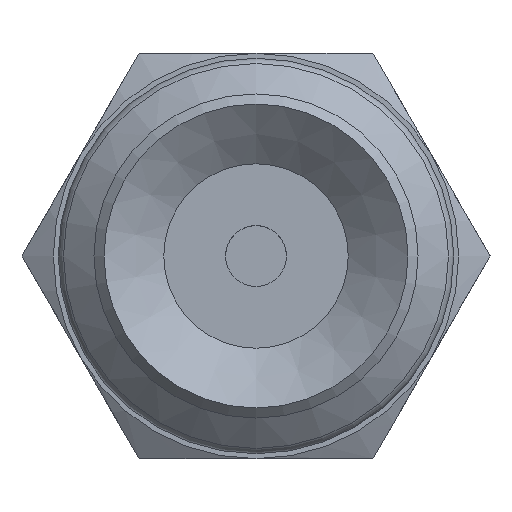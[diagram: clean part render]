
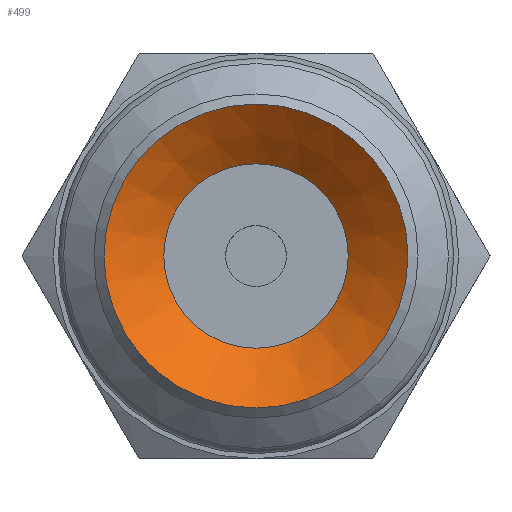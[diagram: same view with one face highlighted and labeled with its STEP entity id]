
A CAD part, front view. The second image highlights one B-rep face of the part: STEP entity #499.
In plain terms, the highlighted conical face has half-angle 52 degrees and reference radius 1.82 mm.
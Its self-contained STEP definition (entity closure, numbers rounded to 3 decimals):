
#499=ADVANCED_FACE('',(#758,#759),#760,.F.);
#758=FACE_BOUND('',#1034,.T.);
#759=FACE_OUTER_BOUND('',#1035,.T.);
#760=CONICAL_SURFACE('',#1036,1.82,0.908);
#1034=EDGE_LOOP('',(#1733));
#1035=EDGE_LOOP('',(#1734));
#1036=AXIS2_PLACEMENT_3D('',#1735,#1736,#1737);
#1733=ORIENTED_EDGE('',*,*,#1964,.F.);
#1734=ORIENTED_EDGE('',*,*,#1966,.T.);
#1735=CARTESIAN_POINT('',(0.0,6.889,0.0));
#1736=DIRECTION('',(-0.0,-1.0,0.));
#1737=DIRECTION('',(0.0,0.,-1.0));
#1964=EDGE_CURVE('',#2284,#2284,#2285,.T.);
#1966=EDGE_CURVE('',#2288,#2288,#2289,.T.);
#2284=VERTEX_POINT('',#2984);
#2285=CIRCLE('',#2985,1.82);
#2288=VERTEX_POINT('',#2988);
#2289=CIRCLE('',#2989,3.0);
#2984=CARTESIAN_POINT('',(0.0,6.889,-1.82));
#2985=AXIS2_PLACEMENT_3D('',#3280,#3281,#3282);
#2988=CARTESIAN_POINT('',(0.0,5.967,-3.0));
#2989=AXIS2_PLACEMENT_3D('',#3286,#3287,#3288);
#3280=CARTESIAN_POINT('',(0.0,6.889,0.0));
#3281=DIRECTION('',(0.0,-1.0,0.));
#3282=DIRECTION('',(0.0,0.,-1.0));
#3286=CARTESIAN_POINT('',(0.0,5.967,0.0));
#3287=DIRECTION('',(0.0,-1.0,0.));
#3288=DIRECTION('',(0.0,0.,-1.0));
